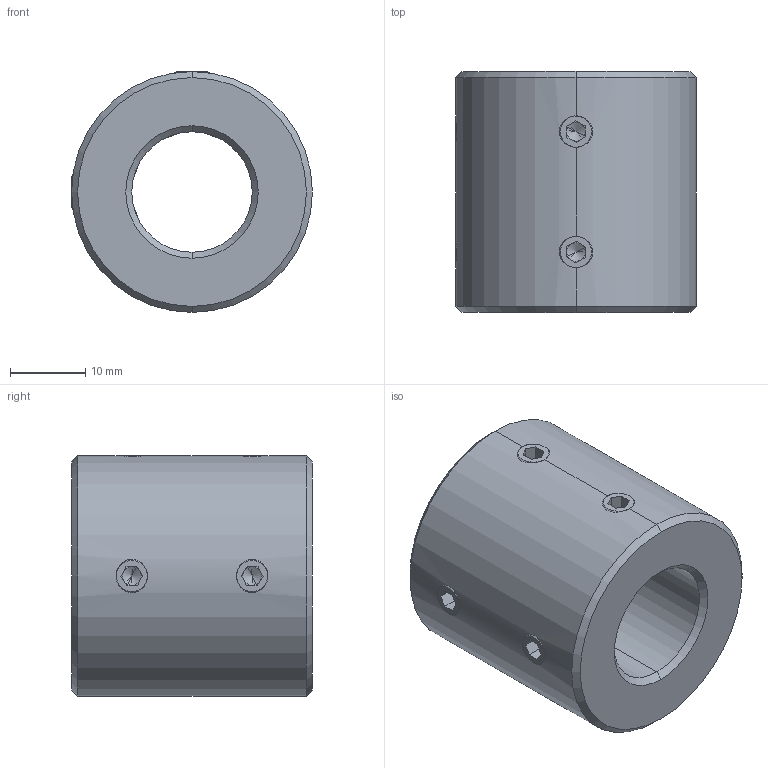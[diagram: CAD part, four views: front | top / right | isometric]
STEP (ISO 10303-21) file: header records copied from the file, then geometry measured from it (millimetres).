
FILE_DESCRIPTION (( 'STEP AP214' ), '1' );
FILE_NAME ('LL-D-D32L32-16-16½¨Ä£.STEP', '2022-07-22T11:35:09', ( '' ), ( '' ), 'SwSTEP 2.0', 'SolidWorks 2022', '' );
FILE_SCHEMA (( 'AUTOMOTIVE_DESIGN' ));
Length unit declared in the file: millimetre
Products named in the file (1): LL-D-D32L32-16-16膘耀
Bounding box: 32 x 32 x 32 mm (x, y, z)
Volume: 19152.5 mm3; surface area: 5997.2 mm2
Topology: 1 solids, 1 shells, 110 faces, 280 edges, 172 vertices
Faces by surface type: plane 58, cone 32, cylinder 20
Entity records: 3674 total; most frequent: CARTESIAN_POINT 1031, ORIENTED_EDGE 544, DIRECTION 542, EDGE_CURVE 272, AXIS2_PLACEMENT_3D 199, VERTEX_POINT 172, LINE 144, VECTOR 144
